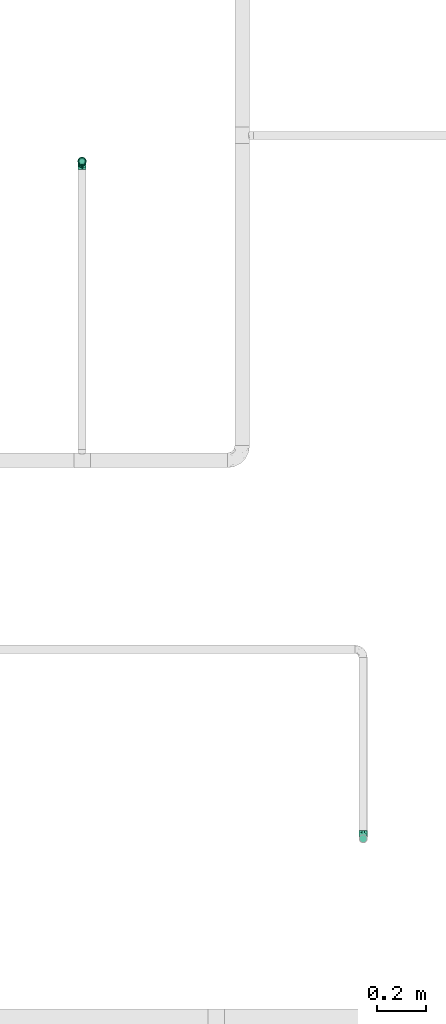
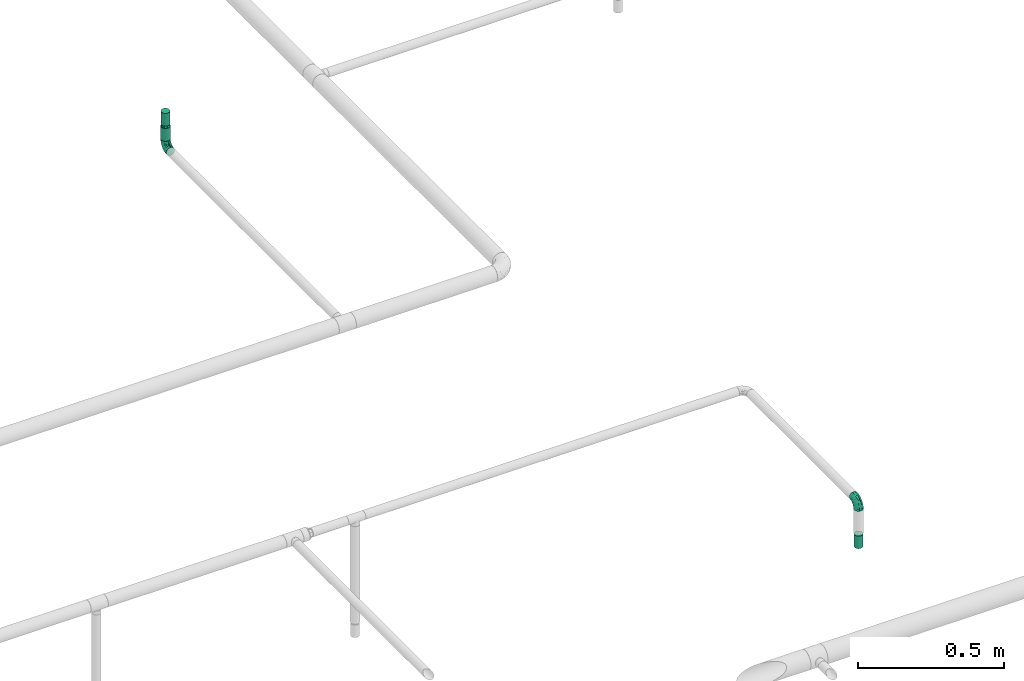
# One storey, part 21 of 45: 3 flow fittings, 2 flow terminals, 1 flow segment.
"""IFC2X3 building model written with IfcOpenShell, lengths in millimetres."""

from ifc_helpers import new_model, entity, si_unit, converted_unit, derived_unit, direction, frame, origin_with_axes, origin_2d_with_axis, place, context, subcontext, project, spatial, hollow_circle, extrude, open_shell, surface_model, source, transform, mapped, type_object, element, save


model = new_model("IFC2X3")

# Units and contexts
model_context = context("Model", 3, precision=0.01, world=frame((0.0, 4.29681676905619e-09, 0.0)), true_north=direction((4.01073788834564e-13, 1.0)))
plan_context = context("Plan", 3, precision=0.01, world=frame((0.0, 4.29681676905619e-09, 0.0)), true_north=direction((4.01073788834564e-13, 1.0)))
body_context = subcontext(model_context, "Body", "Model", "MODEL_VIEW")
ifc_project = project(units=[converted_unit("PLANEANGLEUNIT", "DEGREE", entity("IfcPositiveLengthMeasure", 0.0174532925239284), si_unit("PLANEANGLEUNIT", "RADIAN"), dimensions=[0, 0, 0, 0, 0, 0, 0]), si_unit("AREAUNIT", "SQUARE_METRE"), si_unit("LENGTHUNIT", "METRE", prefix="MILLI"), si_unit("MASSUNIT", "GRAM", prefix="KILO"), si_unit("POWERUNIT", "WATT"), si_unit("PRESSUREUNIT", "PASCAL", prefix="KILO"), si_unit("FORCEUNIT", "NEWTON", prefix="KILO"), si_unit("ELECTRICVOLTAGEUNIT", "VOLT"), si_unit("ELECTRICCURRENTUNIT", "AMPERE"), si_unit("THERMODYNAMICTEMPERATUREUNIT", "DEGREE_CELSIUS"), si_unit("TIMEUNIT", "SECOND"), si_unit("VOLUMEUNIT", "CUBIC_METRE"), derived_unit("LINEARVELOCITYUNIT", [(si_unit("LENGTHUNIT", "METRE"), 1), (si_unit("TIMEUNIT", "SECOND"), -1)]), derived_unit("VOLUMETRICFLOWRATEUNIT", [(si_unit("VOLUMEUNIT", "CUBIC_METRE"), 1), (si_unit("TIMEUNIT", "SECOND"), -1)]), derived_unit("THERMALTRANSMITTANCEUNIT", [(si_unit("POWERUNIT", "WATT"), 1), (si_unit("THERMODYNAMICTEMPERATUREUNIT", "KELVIN"), -1), (si_unit("AREAUNIT", "SQUARE_METRE"), -1)]), derived_unit("SOUNDPRESSUREUNIT", [(si_unit("PRESSUREUNIT", "PASCAL"), 1)])], contexts=[model_context, plan_context])

# Site, building, storey
site_placement = place(None, frame((0.0, -4.29681676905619e-09, 0.0), z_axis=(0.0, 0.0, 1.0), x_axis=(1.0, 0.0, 0.0)))
site = spatial("IfcSite", under=ifc_project, at=site_placement, CompositionType="ELEMENT")
building_placement = place(site_placement, frame((0.0, 4.29681676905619e-09, 0.0), z_axis=(0.0, 0.0, 1.0), x_axis=(1.0, 0.0, 0.0)))
building = spatial("IfcBuilding", under=site, at=building_placement, Name="mc-building", CompositionType="ELEMENT")
storey_placement = place(building_placement, frame((0.0, 0.0, 210200.0), z_axis=(0.0, 0.0, 1.0), x_axis=(1.0, 0.0, 0.0)))
storey = spatial("IfcBuildingStorey", under=building, at=storey_placement, Name="Nivå F - 0,7 m", CompositionType="ELEMENT", Elevation=210200.0)

# Flow fittings
pipe_fitting_type_1 = type_object("IfcPipeFittingType", Name="magi_pipe_fe_elbow_short_001", PredefinedType="BEND")
shared_shape_1 = source(origin_with_axes(), body_context, "Body", "SurfaceModel", [
    surface_model("IfcShellBasedSurfaceModel", [(-33.8, -11.9501, -11.9501), (-33.8, -14.63583, -8.45), (-33.8, -8.45, -14.63583), (-33.8, 0.0, -16.9), (-33.8, -4.37404, -16.32415), (-33.8, -16.32415, -4.37404), (-33.8, -16.9, 0.0), (-33.8, 11.9501, 11.9501), (-33.8, 14.63583, 8.45), (-33.8, 8.45, 14.63583), (-33.8, -11.9501, 11.9501), (-33.8, -8.45, 14.63583), (-33.8, -14.63583, 8.45), (-33.8, -16.32415, 4.37404), (-33.8, -4.37404, 16.32415), (-33.8, 0.0, 16.9), (-33.8, 16.9, 0.0), (-33.8, 16.32415, -4.37404), (-33.8, 16.32415, 4.37404), (-33.8, 4.37404, -16.32415), (-33.8, 8.45, -14.63583), (-33.8, 14.63583, -8.45), (-33.8, 11.9501, -11.9501), (-33.8, 4.37404, 16.32415), (-4.37404, 33.8, -16.32415), (16.9, 33.8, 0.0), (0.0, 33.8, -16.9), (-16.32415, 33.8, -4.37404), (-8.45, 33.8, -14.63583), (-14.63583, 33.8, -8.45), (-11.9501, 33.8, -11.9501), (16.32415, 33.8, 4.37404), (8.45, 33.8, -14.63583), (14.63583, 33.8, -8.45), (11.9501, 33.8, -11.9501), (4.37404, 33.8, -16.32415), (16.32415, 33.8, -4.37404), (-16.32415, 33.8, 4.37404), (-4.37404, 33.8, 16.32415), (-14.63583, 33.8, 8.45), (-8.45, 33.8, 14.63583), (-11.9501, 33.8, 11.9501), (14.63583, 33.8, 8.45), (8.45, 33.8, 14.63583), (11.9501, 33.8, 11.9501), (0.0, 33.8, 16.9), (4.37404, 33.8, 16.32415), (-16.9, 33.8, 0.0), (-24.79389, -13.12945, 9.48721), (-22.19287, -9.75018, 12.59315), (-24.09897, -14.97035, 0.0), (-14.93934, -10.76256, 8.5297), (-22.46095, -14.75051, 5.27077), (14.75051, 22.46094, 5.27077), (11.9251, 13.23888, 4.33236), (13.04069, 14.39795, 0.0), (7.71387, 13.68847, 11.55891), (9.75018, 22.19287, 12.59315), (4.10169, 13.0571, 14.04018), (-24.84007, -6.39063, 15.2048), (-25.81779, -2.23879, 16.61097), (-23.66549, 2.59054, 16.87119), (-26.50418, 14.06512, 11.08152), (-24.21253, 17.66365, 7.72657), (-29.58514, 15.86957, 7.00283), (-6.17382, -7.5455, 0.0), (-13.23888, -11.9251, 4.33236), (-14.39795, -13.04069, 0.0), (-17.81434, 18.87373, 11.97104), (-6.30846, 29.15138, 15.82987), (-2.31622, 25.28002, 16.85849), (-29.23923, 10.23435, 13.77053), (-1.45439, -2.85688, 7.61475), (-0.28326, 0.34872, 10.09509), (-5.74484, -4.04709, 10.4122), (-4.41137, 11.31918, 16.59407), (-8.39727, 3.10034, 15.7812), (-1.72649, 9.1306, 15.53089), (-17.39909, 24.75344, 7.64977), (-26.19233, 20.0512, 0.0), (-28.14518, 17.29657, 4.25857), (-26.05147, 6.6281, 15.96447), (-5.87354, 16.61944, 16.86968), (-12.51807, 12.51807, 16.48937), (-10.06312, 7.38516, 16.81295), (-3.01882, 3.01882, 13.81718), (-13.0571, -4.10169, 14.04018), (-16.82553, -0.15166, 16.38038), (10.76256, 14.93934, 8.5297), (13.12945, 24.79389, 9.48721), (6.39063, 24.84007, 15.2048), (2.23879, 25.81779, 16.61097), (-13.68847, -7.71387, 11.55891), (14.97035, 24.09897, 0.0), (-7.30894, 22.89991, 16.09489), (-10.67958, 26.17414, 14.008), (-12.78295, 18.26924, 15.06066), (-13.88562, 22.45231, 12.93244), (-18.04944, 15.16501, 14.04434), (-23.11658, 20.08178, 4.02986), (-21.84989, 21.84989, 0.0), (-18.55817, 25.48277, 3.93065), (-13.95142, 26.94732, 11.03289), (-18.57098, 7.23906, 16.59756), (-16.58335, 4.14122, 16.89279), (-17.96666, 11.46709, 15.63151), (-9.84453, 17.54304, 16.18938), (0.15166, 16.82553, 16.38038), (-23.27207, 11.47201, 14.23154), (3.84842, 5.86994, 10.70473), (-8.0212, -7.54413, 7.93275), (1.00345, -2.19508, 4.57414), (5.13203, 3.01004, 5.90201), (5.24161, 1.7543, 2.53265), (8.70457, 7.04947, 3.99182), (-20.0512, 26.19233, 0.0), (8.4852, 8.76699, 7.09296), (-4.55488, -6.72064, 4.90681), (2.05031, -2.05031, 0.0), (7.5455, 6.17382, 0.0), (-26.75399, 2.1369, -16.845), (-14.61995, 24.73803, -11.27736), (-28.45274, -13.45335, -9.81895), (-26.00469, 6.63555, -15.96645), (-23.06726, 20.04573, -4.26202), (-13.80647, -4.26506, -14.17873), (-14.67501, -0.21081, -16.07388), (-6.7902, -0.2828, -13.8478), (-24.53586, 11.08096, -14.13417), (-26.72048, 14.00837, -11.05776), (10.0967, 24.44989, -12.75976), (5.83237, 21.40218, -15.03047), (6.66249, 28.54238, -15.38093), (-20.38182, 15.48705, -12.74596), (12.53268, 21.23441, -9.15363), (12.54494, 15.67504, -5.54878), (9.7522, 12.89279, -8.66343), (-15.65186, 19.64213, -13.01327), (-12.03528, 20.66498, -14.67665), (-15.61907, 15.61906, -14.83879), (-25.56551, -15.26206, 0.0), (-24.65452, -15.12934, -5.50955), (13.45335, 28.45274, -9.81895), (15.12934, 24.65452, -5.50955), (-7.35442, -8.31014, -5.65563), (-15.67504, -12.54494, -5.54878), (-24.44989, -10.0967, -12.75976), (0.16522, 0.41303, -9.71728), (-5.70658, -5.33066, -8.89288), (-5.13869, -2.37198, -11.53565), (-21.23441, -12.53268, -9.15363), (0.71146, 7.93863, -14.09382), (0.21081, 14.67501, -16.07388), (3.49291, 14.42772, -14.76381), (-24.89911, -2.13088, -16.591), (-28.54238, -6.66249, -15.38093), (-18.44386, -7.71663, -13.26957), (2.13088, 24.89911, -16.591), (-28.64342, 17.44413, -2.89318), (1.70017, -1.28722, -5.09504), (-16.57067, 26.81947, -7.36596), (-17.69055, 27.4263, -3.76405), (-12.89279, -9.7522, -8.66343), (-5.96611, 5.96611, -15.95814), (-20.53709, 20.09345, -8.28985), (-2.1369, 26.75399, -16.845), (-6.89872, 24.58781, -16.02578), (-10.60739, 26.53157, -13.98044), (-21.40218, -5.83237, -15.03047), (2.93192, 5.89627, -11.55917), (6.89393, 12.61842, -11.82233), (5.58056, 5.95325, -8.79455), (-3.99512, 18.61798, -16.89635), (8.31014, 7.35442, -5.65563), (-9.1383, 9.86148, -16.89041), (-9.99983, 16.02119, -16.39699), (-16.68576, 9.78031, -16.34199), (-27.01915, 16.61158, -7.12979), (15.26206, 25.56551, 0.0), (-18.61798, 3.99512, -16.89635), (-19.37495, 27.82495, 0.0), (-12.61842, -6.89393, -11.82233), (-18.84705, 19.14018, -10.96545)], [open_shell([[[0, 1, 2]], [[3, 4, 2]], [[5, 6, 1]], [[7, 8, 9]], [[10, 11, 12]], [[13, 12, 11]], [[14, 15, 11]], [[16, 17, 18]], [[3, 6, 19]], [[20, 19, 17]], [[20, 17, 21]], [[22, 20, 21]], [[17, 19, 6]], [[2, 1, 6]], [[2, 6, 3]], [[6, 18, 17]], [[23, 18, 6]], [[8, 18, 23]], [[8, 23, 9]], [[13, 23, 6]], [[23, 13, 11]], [[11, 15, 23]], [[24, 25, 26]], [[27, 24, 28]], [[29, 27, 28]], [[29, 28, 30]], [[31, 25, 24]], [[32, 33, 34]], [[32, 35, 26]], [[33, 25, 36]], [[33, 32, 26]], [[25, 33, 26]], [[24, 27, 37]], [[31, 24, 37]], [[38, 37, 39]], [[40, 38, 39]], [[40, 39, 41]], [[31, 37, 38]], [[42, 43, 44]], [[43, 42, 31]], [[43, 45, 46]], [[43, 31, 38]], [[38, 45, 43]], [[37, 27, 47]], [[10, 48, 49]], [[13, 6, 50]], [[51, 48, 52]], [[53, 54, 55]], [[48, 10, 12]], [[13, 52, 12]], [[56, 57, 58]], [[49, 11, 10]], [[49, 59, 11]], [[15, 60, 61]], [[62, 63, 64]], [[65, 66, 67]], [[57, 44, 43]], [[62, 68, 63]], [[38, 69, 70]], [[9, 71, 7]], [[14, 60, 15]], [[72, 73, 74]], [[75, 76, 77]], [[7, 62, 8]], [[39, 37, 78]], [[79, 16, 80]], [[64, 18, 8]], [[15, 61, 23]], [[23, 81, 9]], [[82, 83, 84]], [[74, 85, 86]], [[59, 86, 87]], [[88, 89, 57]], [[90, 43, 46]], [[42, 53, 31]], [[46, 45, 91]], [[54, 53, 88]], [[42, 89, 53]], [[92, 86, 49]], [[89, 42, 44]], [[11, 59, 14]], [[53, 55, 93]], [[93, 31, 53]], [[66, 52, 67]], [[94, 82, 70]], [[95, 96, 94]], [[97, 98, 96]], [[79, 99, 100]], [[40, 41, 95]], [[101, 100, 99]], [[68, 78, 63]], [[38, 40, 69]], [[16, 18, 80]], [[95, 94, 69]], [[78, 101, 99]], [[41, 102, 95]], [[70, 45, 38]], [[97, 95, 102]], [[13, 50, 52]], [[90, 57, 43]], [[57, 90, 58]], [[81, 23, 61]], [[103, 104, 84]], [[105, 81, 103]], [[41, 39, 102]], [[106, 96, 83]], [[94, 106, 82]], [[91, 70, 107]], [[71, 62, 7]], [[62, 108, 98]], [[86, 59, 49]], [[67, 52, 50]], [[60, 59, 87]], [[92, 49, 51]], [[86, 85, 76]], [[91, 90, 46]], [[25, 31, 93]], [[107, 77, 58]], [[107, 58, 90]], [[58, 85, 109]], [[110, 74, 92]], [[72, 74, 110]], [[66, 51, 52]], [[72, 111, 112]], [[113, 114, 112]], [[56, 88, 57]], [[52, 48, 12]], [[49, 48, 51]], [[57, 89, 44]], [[53, 89, 88]], [[103, 81, 61]], [[71, 81, 108]], [[18, 64, 80]], [[63, 78, 99]], [[47, 115, 101]], [[101, 115, 100]], [[39, 78, 102]], [[68, 102, 78]], [[97, 96, 95]], [[105, 98, 108]], [[103, 84, 83]], [[107, 70, 82]], [[76, 84, 87]], [[82, 84, 75]], [[70, 91, 45]], [[90, 91, 107]], [[59, 60, 14]], [[61, 60, 87]], [[73, 85, 74]], [[109, 112, 116]], [[103, 61, 104]], [[105, 103, 83]], [[96, 105, 83]], [[81, 105, 108]], [[96, 98, 105]], [[62, 98, 68]], [[61, 87, 104]], [[87, 84, 104]], [[86, 76, 87]], [[77, 76, 85]], [[58, 77, 85]], [[75, 77, 107]], [[82, 75, 107]], [[76, 75, 84]], [[81, 71, 9]], [[62, 71, 108]], [[95, 69, 40]], [[70, 69, 94]], [[62, 64, 8]], [[80, 63, 99]], [[63, 80, 64]], [[80, 99, 79]], [[66, 65, 117]], [[110, 66, 117]], [[112, 114, 116]], [[118, 117, 65]], [[110, 92, 51]], [[112, 111, 113]], [[119, 55, 54]], [[74, 86, 92]], [[58, 109, 56]], [[116, 56, 109]], [[66, 110, 51]], [[72, 110, 117]], [[111, 72, 117]], [[73, 112, 109]], [[117, 118, 111]], [[113, 111, 118]], [[118, 119, 113]], [[114, 119, 54]], [[119, 114, 113]], [[116, 54, 88]], [[54, 116, 114]], [[116, 88, 56]], [[112, 73, 72]], [[85, 73, 109]], [[78, 37, 101]], [[47, 101, 37]], [[102, 68, 97]], [[97, 68, 98]], [[82, 106, 83]], [[94, 96, 106]], [[19, 120, 3]], [[29, 30, 121]], [[0, 122, 1]], [[20, 123, 19]], [[100, 124, 79]], [[125, 126, 127]], [[128, 22, 129]], [[130, 131, 132]], [[128, 129, 133]], [[134, 135, 136]], [[137, 138, 139]], [[128, 20, 22]], [[67, 140, 141]], [[134, 142, 143]], [[141, 5, 1]], [[144, 65, 145]], [[146, 0, 2]], [[147, 148, 149]], [[145, 141, 150]], [[151, 152, 153]], [[154, 4, 3]], [[2, 155, 146]], [[150, 146, 156]], [[155, 2, 4]], [[143, 135, 134]], [[35, 157, 26]], [[16, 79, 158]], [[148, 159, 144]], [[160, 161, 27]], [[145, 162, 144]], [[163, 152, 151]], [[27, 29, 160]], [[121, 164, 160]], [[32, 34, 130]], [[26, 165, 24]], [[24, 165, 166]], [[142, 34, 33]], [[30, 28, 167]], [[124, 161, 164]], [[157, 35, 132]], [[155, 154, 168]], [[123, 20, 128]], [[169, 170, 171]], [[172, 157, 152]], [[24, 166, 28]], [[132, 35, 32]], [[142, 130, 34]], [[168, 154, 126]], [[136, 135, 173]], [[133, 137, 139]], [[22, 21, 129]], [[170, 131, 130]], [[33, 36, 143]], [[172, 174, 175]], [[176, 123, 128]], [[158, 177, 17]], [[135, 55, 119]], [[167, 28, 166]], [[175, 166, 172]], [[137, 167, 138]], [[122, 141, 1]], [[140, 6, 5]], [[36, 25, 178]], [[170, 130, 134]], [[152, 157, 131]], [[165, 157, 172]], [[153, 170, 151]], [[152, 163, 174]], [[168, 125, 156]], [[122, 146, 150]], [[120, 154, 3]], [[179, 174, 126]], [[179, 126, 154]], [[126, 163, 127]], [[162, 145, 150]], [[140, 5, 141]], [[36, 178, 143]], [[55, 143, 178]], [[177, 129, 21]], [[128, 133, 139]], [[176, 128, 139]], [[120, 123, 179]], [[121, 160, 29]], [[161, 100, 180]], [[166, 175, 138]], [[121, 30, 167]], [[161, 47, 27]], [[79, 124, 158]], [[124, 164, 177]], [[161, 124, 100]], [[136, 171, 170]], [[127, 163, 151]], [[147, 171, 159]], [[148, 144, 162]], [[127, 151, 169]], [[127, 181, 125]], [[129, 177, 164]], [[21, 17, 177]], [[159, 65, 144]], [[67, 141, 145]], [[143, 55, 135]], [[135, 119, 173]], [[123, 120, 19]], [[154, 120, 179]], [[157, 165, 26]], [[166, 165, 172]], [[172, 152, 174]], [[176, 139, 175]], [[126, 174, 163]], [[176, 174, 179]], [[174, 176, 175]], [[123, 176, 179]], [[150, 181, 162]], [[127, 149, 181]], [[181, 148, 162]], [[159, 148, 147]], [[171, 136, 173]], [[170, 134, 136]], [[159, 171, 173]], [[171, 147, 169]], [[169, 147, 149]], [[151, 170, 169]], [[164, 182, 129]], [[182, 121, 137]], [[181, 149, 148]], [[169, 149, 127]], [[182, 137, 133]], [[167, 137, 121]], [[166, 138, 167]], [[175, 139, 138]], [[129, 182, 133]], [[121, 182, 164]], [[161, 160, 164]], [[47, 161, 180]], [[177, 158, 124]], [[16, 158, 17]], [[130, 132, 32]], [[157, 132, 131]], [[143, 142, 33]], [[130, 142, 134]], [[154, 155, 4]], [[146, 155, 168]], [[146, 122, 0]], [[141, 122, 150]], [[152, 131, 153]], [[159, 119, 118]], [[67, 145, 65]], [[170, 153, 131]], [[119, 159, 173]], [[159, 118, 65]], [[156, 125, 181]], [[126, 125, 168]], [[150, 156, 181]], [[168, 156, 146]]])]),
])
for number, where, z_axis, x_axis, name in (
    (1, (330113.5, 460854.17064, 2938.0), (-1.0, 0.0, 0.0), (0.0, 0.0, 1.0), "magi_pipe_fe_elbow_short_001"),
    (2, (328964.5, 463622.5, 3145.0), (-1.0, 0.0, 0.0), (0.0, 0.0, -1.0), "magi_pipe_fe_elbow_short_001"),
):
    element("IfcFlowFitting", number, at=place(storey_placement, frame(where, z_axis=z_axis, x_axis=x_axis)), inside=storey, type_object=pipe_fitting_type_1, Name=name, context=body_context, shape_type="MappedRepresentation", body=[
        mapped(shared_shape_1, transform((0.0, 0.0, 0.0), scale=1.0)),
    ])
pipe_fitting_type_2 = type_object("IfcPipeFittingType", Name="magi_pipe_fe_reducer_centric_short_001", PredefinedType="TRANSITION")
shared_shape_2 = source(origin_with_axes(), body_context, "Body", "SurfaceModel", [
    surface_model("IfcShellBasedSurfaceModel", [(-2.0, -7.56604, -7.56604), (-2.0, -10.33541, -2.76936), (-2.0, -5.35, -9.26647), (-2.0, 5.35, -9.26647), (-2.0, 10.33541, -2.76936), (-2.0, 7.56604, -7.56604), (12.4, 11.9501, 11.9501), (12.4, 0.0, 16.9), (12.4, 11.9501, -11.9501), (12.4, 16.9, 0.0), (0.0, -10.7, 0.0), (0.0, -5.35, 9.26647), (0.0, -5.35, -9.26647), (0.0, 10.7, 0.0), (12.4, 15.66253, -2.98753), (12.4, 8.96258, -13.18758), (0.0, 6.6875, -6.94985), (12.4, -15.66253, -2.98753), (12.4, -16.9, 0.0), (12.4, 5.97505, -14.42505), (0.0, 5.35, -9.26647), (12.4, 14.42505, -5.97505), (0.0, 8.025, -4.63324), (0.0, 9.3625, -2.31662), (0.0, -9.3625, -2.31662), (0.0, -8.025, -4.63324), (12.4, -14.42505, -5.97505), (12.4, 13.18758, -8.96258), (12.4, -13.18758, -8.96258), (12.4, -11.9501, -11.9501), (0.0, -6.6875, -6.94985), (12.4, -8.96258, -13.18758), (12.4, -5.97505, -14.42505), (12.4, -15.66253, 2.98753), (12.4, -8.96258, 13.18758), (0.0, -6.6875, 6.94985), (12.4, -11.9501, 11.9501), (12.4, 15.66253, 2.98753), (12.4, -5.97505, 14.42505), (12.4, -14.42505, 5.97505), (0.0, -8.025, 4.63324), (0.0, -9.3625, 2.31662), (0.0, 9.3625, 2.31662), (0.0, 8.025, 4.63324), (12.4, 14.42505, 5.97505), (12.4, -13.18758, 8.96258), (12.4, 13.18758, 8.96258), (0.0, 6.6875, 6.94985), (12.4, 8.96258, 13.18758), (0.0, 5.35, 9.26647), (12.4, 5.97505, 14.42505), (14.4, 4.37404, -16.32415), (14.4, 8.45, -14.63583), (14.4, 11.9501, -11.9501), (14.4, -8.45, -14.63583), (14.4, 16.32415, -4.37404), (14.4, 16.32415, 4.37404), (14.4, 14.63583, -8.45), (14.4, 0.0, -16.9), (14.4, -4.37404, -16.32415), (14.4, -11.9501, -11.9501), (14.4, -16.32415, -4.37404), (14.4, -14.63583, -8.45), (14.4, -16.32415, 4.37404), (14.4, 16.9, 0.0), (14.4, 14.63583, 8.45), (14.4, 11.9501, 11.9501), (14.4, 4.37404, 16.32415), (14.4, 8.45, 14.63583), (14.4, 0.0, 16.9), (14.4, -14.63583, 8.45), (14.4, -16.9, 0.0), (14.4, -8.45, 14.63583), (14.4, -11.9501, 11.9501), (14.4, -4.37404, 16.32415), (12.4, 4.37404, 16.32415), (12.4, -14.63583, 8.45), (12.4, 16.32415, 4.37404), (12.4, 8.45, 14.63583), (12.4, 14.63583, 8.45), (12.4, -8.45, 14.63583), (12.4, -4.37404, 16.32415), (12.4, -16.32415, 4.37404), (12.4, -16.32415, -4.37404), (12.4, -8.45, -14.63583), (12.4, 16.32415, -4.37404), (12.4, 14.63583, -8.45), (12.4, 8.45, -14.63583), (12.4, 4.37404, -16.32415), (12.4, 0.0, -16.9), (12.4, -14.63583, -8.45), (12.4, -4.37404, -16.32415), (-2.0, 2.76936, 10.33541), (-2.0, 0.0, 10.7), (-2.0, 5.35, 9.26647), (-2.0, 7.56604, 7.56604), (-2.0, 9.26647, 5.35), (-2.0, 10.33541, 2.76936), (-2.0, -10.33541, 2.76936), (-2.0, -2.76936, 10.33541), (-2.0, -7.56604, 7.56604), (-2.0, -5.35, 9.26647), (-2.0, -9.26647, 5.35), (-2.0, -10.7, 0.0), (-2.0, 9.26647, -5.35), (-2.0, 2.76936, -10.33541), (-2.0, -9.26647, -5.35), (-2.0, 0.0, -10.7), (-2.0, -2.76936, -10.33541), (-2.0, 10.7, 0.0), (0.0, 0.0, -10.7), (0.0, 2.76936, -10.33541), (0.0, 10.33541, -2.76936), (0.0, 7.56604, -7.56604), (0.0, -10.33541, -2.76936), (0.0, 9.26647, -5.35), (0.0, 0.0, 10.7), (0.0, -2.76936, -10.33541), (0.0, -7.56604, -7.56604), (0.0, -9.26647, -5.35), (0.0, 10.33541, 2.76936), (0.0, 9.26647, 5.35), (0.0, 7.56604, 7.56604), (0.0, 2.76936, 10.33541), (0.0, -7.56604, 7.56604), (0.0, -10.33541, 2.76936), (0.0, -9.26647, 5.35), (0.0, -2.76936, 10.33541), (0.0, 2.675, -9.26647), (0.0, -2.675, -9.26647), (12.4, 2.98753, -15.66253), (0.0, 0.0, -9.26647), (12.4, -2.98753, -15.66253), (0.0, -2.675, 9.26647), (0.0, 2.675, 9.26647), (12.4, -2.98753, 15.66253), (0.0, 0.0, 9.26647), (12.4, 2.98753, 15.66253)], [open_shell([[[0, 1, 2]], [[3, 4, 5]], [[6, 7, 8]], [[8, 9, 6]], [[10, 11, 12]], [[13, 9, 14]], [[15, 16, 8]], [[17, 18, 10]], [[15, 19, 20]], [[21, 22, 23]], [[24, 25, 26]], [[22, 21, 27]], [[28, 26, 25]], [[29, 30, 31]], [[12, 32, 31]], [[10, 18, 33]], [[34, 35, 36]], [[37, 9, 13]], [[34, 38, 11]], [[39, 40, 41]], [[42, 43, 44]], [[40, 39, 45]], [[46, 44, 43]], [[6, 47, 48]], [[49, 50, 48]], [[51, 52, 53]], [[54, 51, 53]], [[53, 55, 56]], [[55, 53, 57]], [[53, 56, 54]], [[58, 54, 59]], [[58, 51, 54]], [[60, 61, 62]], [[61, 60, 54]], [[54, 63, 61]], [[56, 55, 64]], [[56, 65, 66]], [[56, 66, 67]], [[67, 63, 54]], [[67, 66, 68]], [[63, 67, 69]], [[69, 70, 63]], [[71, 61, 63]], [[70, 72, 73]], [[70, 69, 72]], [[72, 69, 74]], [[54, 56, 67]], [[75, 76, 7]], [[77, 75, 78]], [[6, 79, 77]], [[6, 77, 78]], [[76, 75, 77]], [[80, 76, 36]], [[80, 81, 7]], [[7, 76, 80]], [[82, 76, 77]], [[82, 83, 18]], [[82, 77, 84]], [[77, 85, 8]], [[8, 85, 86]], [[8, 87, 88]], [[84, 77, 8]], [[88, 89, 8]], [[83, 29, 90]], [[29, 83, 84]], [[84, 89, 91]], [[83, 82, 84]], [[8, 89, 84]], [[85, 77, 9]], [[83, 61, 18]], [[90, 62, 83]], [[54, 29, 84]], [[90, 29, 60]], [[59, 84, 91]], [[83, 62, 61]], [[61, 71, 18]], [[59, 54, 84]], [[60, 29, 54]], [[60, 62, 90]], [[58, 59, 91]], [[91, 89, 58]], [[88, 51, 89]], [[87, 52, 88]], [[57, 8, 86]], [[87, 8, 53]], [[55, 86, 85]], [[87, 53, 52]], [[52, 51, 88]], [[64, 55, 85]], [[57, 86, 55]], [[57, 53, 8]], [[9, 64, 85]], [[89, 51, 58]], [[77, 56, 9]], [[79, 65, 77]], [[68, 6, 78]], [[79, 6, 66]], [[67, 78, 75]], [[77, 65, 56]], [[56, 64, 9]], [[67, 68, 78]], [[66, 6, 68]], [[66, 65, 79]], [[69, 67, 75]], [[75, 7, 69]], [[81, 74, 7]], [[80, 72, 81]], [[70, 36, 76]], [[80, 36, 73]], [[63, 76, 82]], [[80, 73, 72]], [[72, 74, 81]], [[71, 63, 82]], [[70, 76, 63]], [[70, 73, 36]], [[18, 71, 82]], [[7, 74, 69]], [[92, 1, 93]], [[94, 1, 92]], [[95, 96, 97]], [[95, 97, 94]], [[98, 93, 1]], [[99, 100, 101]], [[99, 93, 100]], [[100, 98, 102]], [[93, 98, 100]], [[98, 1, 103]], [[94, 97, 1]], [[1, 97, 4]], [[5, 4, 104]], [[4, 3, 1]], [[105, 1, 3]], [[1, 0, 106]], [[2, 107, 108]], [[2, 1, 105]], [[105, 107, 2]], [[4, 97, 109]], [[20, 110, 111]], [[112, 20, 113]], [[114, 20, 112]], [[112, 113, 115]], [[116, 114, 112]], [[110, 12, 117]], [[110, 20, 12]], [[118, 114, 119]], [[114, 118, 12]], [[20, 114, 12]], [[112, 13, 120]], [[120, 121, 122]], [[120, 122, 123]], [[116, 112, 123]], [[123, 122, 49]], [[116, 124, 114]], [[125, 124, 126]], [[10, 114, 125]], [[124, 127, 11]], [[125, 114, 124]], [[127, 124, 116]], [[123, 112, 120]], [[1, 114, 103]], [[106, 119, 1]], [[12, 0, 2]], [[106, 0, 118]], [[117, 2, 108]], [[1, 119, 114]], [[114, 10, 103]], [[117, 12, 2]], [[118, 0, 12]], [[118, 119, 106]], [[110, 117, 108]], [[108, 107, 110]], [[105, 111, 107]], [[3, 20, 105]], [[115, 5, 104]], [[3, 5, 113]], [[112, 104, 4]], [[3, 113, 20]], [[20, 111, 105]], [[13, 112, 4]], [[115, 104, 112]], [[115, 113, 5]], [[109, 13, 4]], [[107, 111, 110]], [[97, 120, 109]], [[96, 121, 97]], [[49, 95, 94]], [[96, 95, 122]], [[123, 94, 92]], [[97, 121, 120]], [[120, 13, 109]], [[123, 49, 94]], [[122, 95, 49]], [[122, 121, 96]], [[116, 123, 92]], [[92, 93, 116]], [[99, 127, 93]], [[101, 11, 99]], [[126, 100, 102]], [[101, 100, 124]], [[125, 102, 98]], [[101, 124, 11]], [[11, 127, 99]], [[10, 125, 98]], [[126, 102, 125]], [[126, 124, 100]], [[103, 10, 98]], [[93, 127, 116]], [[18, 7, 36]], [[18, 29, 8]], [[89, 8, 29]], [[18, 8, 7]], [[13, 11, 49]], [[13, 20, 12]], [[13, 12, 11]], [[24, 26, 17]], [[10, 24, 17]], [[16, 15, 20]], [[30, 12, 31]], [[23, 14, 21]], [[19, 128, 20]], [[27, 8, 16]], [[32, 12, 129]], [[30, 28, 25]], [[130, 131, 128]], [[129, 132, 32]], [[16, 22, 27]], [[13, 14, 23]], [[128, 19, 130]], [[130, 89, 131]], [[131, 132, 129]], [[89, 132, 131]], [[28, 30, 29]], [[42, 44, 37]], [[13, 42, 37]], [[35, 34, 11]], [[47, 49, 48]], [[41, 33, 39]], [[38, 133, 11]], [[45, 36, 35]], [[50, 49, 134]], [[47, 46, 43]], [[135, 136, 133]], [[134, 137, 50]], [[35, 40, 45]], [[10, 33, 41]], [[133, 38, 135]], [[135, 7, 136]], [[136, 137, 134]], [[7, 137, 136]], [[46, 47, 6]]])]),
])
flow_fitting_placement = place(storey_placement, frame((328964.5, 463622.5, 3245.04800000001), z_axis=(1.0, 0.0, 0.0), x_axis=(0.0, 0.0, -1.0)))
element("IfcFlowFitting", 3, at=flow_fitting_placement, inside=storey, type_object=pipe_fitting_type_2, Name="magi_pipe_fe_reducer_centric_short_001", context=body_context, shape_type="MappedRepresentation", body=[
    mapped(shared_shape_2, transform((0.0, 0.0, 0.0), scale=1.0)),
])

# Flow segment
pipe_segment_type = type_object("IfcPipeSegmentType", Name="Stålrør normaltykke", PredefinedType="RIGIDSEGMENT")
shared_shape_3 = source(origin_with_axes(), body_context, "Body", "SweptSolid", [
    extrude(hollow_circle(Radius=16.9, WallThickness=2.0, at=origin_2d_with_axis()), frame((0.0, 0.0, 0.0), z_axis=(1.0, 0.0, 0.0), x_axis=(0.0, 1.0, 0.0)), (0.0, 0.0, 1.0), 53.8),
])
flow_segment_placement = place(storey_placement, frame((328964.5, 463622.5, 3232.64799999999), z_axis=(1.0, 0.0, 0.0), x_axis=(0.0, 0.0, -1.0)))
element("IfcFlowSegment", 4, at=flow_segment_placement, inside=storey, type_object=pipe_segment_type, Name="Stålrør normaltykke", context=body_context, shape_type="MappedRepresentation", body=[
    mapped(shared_shape_3, transform((0.0, 0.0, 0.0), scale=1.0)),
])

# Flow terminals
fire_suppression_terminal_type_1 = type_object("IfcFireSuppressionTerminalType", Name="SP-15-K80-68DGR-STD-HIMLING", PredefinedType="NOTDEFINED")
shared_shape_4 = source(origin_with_axes(), body_context, "Body", "SurfaceModel", [
    surface_model("IfcShellBasedSurfaceModel", [(4.1411, -15.45481, 53.0), (8.0, -13.85641, 53.0), (11.31371, -11.31371, 53.0), (-8.0, -13.85641, 53.0), (15.45481, -4.1411, 53.0), (16.0, 0.0, 53.0), (13.85641, -8.0, 53.0), (0.0, -16.0, 53.0), (-4.1411, -15.45481, 53.0), (-13.85641, -8.0, 53.0), (-11.31371, -11.31371, 53.0), (-15.45481, -4.1411, 53.0), (15.45481, 4.1411, 53.0), (13.85641, 8.0, 53.0), (11.31371, 11.31371, 53.0), (-4.1411, 15.45481, 53.0), (8.0, 13.85641, 53.0), (4.1411, 15.45481, 53.0), (0.0, 16.0, 53.0), (-13.85641, 8.0, 53.0), (-15.45481, 4.1411, 53.0), (-16.0, 0.0, 53.0), (-11.31371, 11.31371, 53.0), (-8.0, 13.85641, 53.0), (0.0, 16.0, 0.0), (4.1411, 15.45481, 0.0), (8.0, 13.85641, 0.0), (-4.1411, 15.45481, 0.0), (11.31371, 11.31371, 0.0), (13.85641, 8.0, 0.0), (15.45481, 4.1411, 0.0), (-15.45481, -4.1411, 0.0), (-11.31371, 11.31371, 0.0), (-8.0, 13.85641, 0.0), (-13.85641, 8.0, 0.0), (-15.45481, 4.1411, 0.0), (-16.0, 0.0, 0.0), (4.1411, -15.45481, 0.0), (16.0, 0.0, 0.0), (15.45481, -4.1411, 0.0), (13.85641, -8.0, 0.0), (11.31371, -11.31371, 0.0), (8.0, -13.85641, 0.0), (-8.0, -13.85641, 0.0), (-13.85641, -8.0, 0.0), (-11.31371, -11.31371, 0.0), (0.0, -16.0, 0.0), (-4.1411, -15.45481, 0.0)], [open_shell([[[0, 1, 2]], [[3, 0, 2]], [[4, 5, 2]], [[4, 2, 6]], [[3, 2, 5]], [[7, 3, 8]], [[7, 0, 3]], [[3, 9, 10]], [[9, 3, 11]], [[5, 11, 3]], [[5, 12, 11]], [[12, 13, 14]], [[15, 12, 14]], [[16, 17, 18]], [[14, 16, 15]], [[18, 15, 16]], [[11, 19, 20]], [[21, 11, 20]], [[22, 15, 23]], [[15, 22, 19]], [[19, 11, 15]], [[11, 12, 15]], [[24, 25, 26]], [[27, 24, 26]], [[28, 29, 30]], [[27, 26, 28]], [[27, 28, 31]], [[27, 32, 33]], [[32, 27, 34]], [[34, 31, 35]], [[31, 34, 27]], [[35, 31, 36]], [[28, 30, 31]], [[37, 38, 39]], [[37, 39, 40]], [[41, 42, 37]], [[41, 37, 40]], [[38, 37, 43]], [[44, 43, 45]], [[43, 44, 31]], [[43, 46, 47]], [[43, 31, 38]], [[37, 46, 43]], [[38, 31, 30]], [[11, 31, 44]], [[45, 9, 44]], [[3, 43, 47]], [[45, 43, 10]], [[8, 47, 46]], [[31, 21, 36]], [[31, 11, 21]], [[44, 9, 11]], [[45, 10, 9]], [[3, 10, 43]], [[47, 8, 3]], [[46, 7, 8]], [[0, 37, 42]], [[41, 1, 42]], [[6, 40, 39]], [[41, 40, 2]], [[4, 39, 38]], [[37, 0, 7]], [[42, 1, 0]], [[41, 2, 1]], [[40, 6, 2]], [[4, 6, 39]], [[38, 5, 4]], [[37, 7, 46]], [[12, 38, 30]], [[13, 30, 29]], [[16, 26, 25]], [[17, 25, 24]], [[30, 13, 12]], [[12, 5, 38]], [[28, 14, 13]], [[28, 26, 14]], [[14, 26, 16]], [[25, 17, 16]], [[28, 13, 29]], [[24, 18, 17]], [[15, 27, 33]], [[32, 23, 33]], [[19, 34, 35]], [[32, 34, 22]], [[20, 35, 36]], [[27, 15, 18]], [[33, 23, 15]], [[32, 22, 23]], [[34, 19, 22]], [[20, 19, 35]], [[36, 21, 20]], [[27, 18, 24]]])]),
])
flow_terminal_1_placement = place(storey_placement, frame((330113.5, 460854.17064, 2800.0), z_axis=(0.0, 0.0, -1.0), x_axis=(-1.0, 0.0, 0.0)))
element("IfcFlowTerminal", 5, at=flow_terminal_1_placement, inside=storey, type_object=fire_suppression_terminal_type_1, Name="SP-15-K80-68DGR-STD-HIMLING", context=body_context, shape_type="MappedRepresentation", body=[
    mapped(shared_shape_4, transform((0.0, 0.0, 0.0), scale=1.0)),
])
fire_suppression_terminal_type_2 = type_object("IfcFireSuppressionTerminalType", Name="SP-15-K80-68DGR-STD-STÅENDE", PredefinedType="NOTDEFINED")
flow_terminal_2_placement = place(storey_placement, frame((328964.5, 463622.5, 3242.0), z_axis=(0.0, 0.0, 1.0), x_axis=(1.0, 0.0, 0.0)))
element("IfcFlowTerminal", 6, at=flow_terminal_2_placement, inside=storey, type_object=fire_suppression_terminal_type_2, Name="SP-15-K80-68DGR-STD-STÅENDE", context=body_context, shape_type="MappedRepresentation", body=[
    mapped(shared_shape_4, transform((0.0, 0.0, 0.0), scale=1.0)),
])

save(model, "model.ifc")
